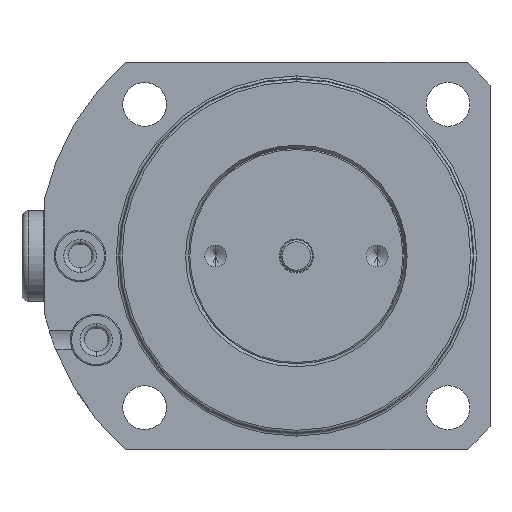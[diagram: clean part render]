
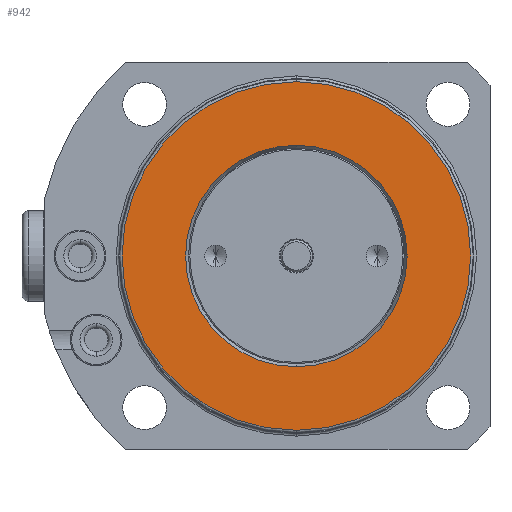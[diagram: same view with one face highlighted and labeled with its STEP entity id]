
A CAD part, front view. The second image highlights one B-rep face of the part: STEP entity #942.
In plain terms, the highlighted planar face has unit normal (0, -1, 0).
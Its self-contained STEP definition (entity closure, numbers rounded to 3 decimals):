
#362=PLANE('',#3974);
#425=FACE_BOUND('',#1443,.T.);
#426=FACE_BOUND('',#1444,.T.);
#942=ADVANCED_FACE('',(#425,#426),#362,.T.);
#1443=EDGE_LOOP('',(#1958,#1959));
#1444=EDGE_LOOP('',(#1960,#1961));
#1958=ORIENTED_EDGE('',*,*,#3113,.T.);
#1959=ORIENTED_EDGE('',*,*,#3195,.T.);
#1960=ORIENTED_EDGE('',*,*,#3108,.F.);
#1961=ORIENTED_EDGE('',*,*,#3196,.F.);
#2770=VERTEX_POINT('',#6014);
#2771=VERTEX_POINT('',#6015);
#2774=VERTEX_POINT('',#6023);
#2775=VERTEX_POINT('',#6025);
#3108=EDGE_CURVE('',#2770,#2771,#3551,.T.);
#3113=EDGE_CURVE('',#2775,#2774,#3555,.T.);
#3195=EDGE_CURVE('',#2774,#2775,#3599,.T.);
#3196=EDGE_CURVE('',#2771,#2770,#3600,.T.);
#3551=CIRCLE('',#3900,27.);
#3555=CIRCLE('',#3905,17.162);
#3599=CIRCLE('',#3971,17.162);
#3600=CIRCLE('',#3973,27.);
#3900=AXIS2_PLACEMENT_3D('',#6013,#4626,#4627);
#3905=AXIS2_PLACEMENT_3D('',#6024,#4637,#4638);
#3971=AXIS2_PLACEMENT_3D('',#6230,#4794,#4795);
#3973=AXIS2_PLACEMENT_3D('',#6232,#4798,#4799);
#3974=AXIS2_PLACEMENT_3D('',#6233,#4800,#4801);
#4626=DIRECTION('',(0.,1.,0.));
#4627=DIRECTION('',(0.,0.,1.));
#4637=DIRECTION('',(0.,1.,0.));
#4638=DIRECTION('',(0.,0.,1.));
#4794=DIRECTION('',(0.,1.,0.));
#4795=DIRECTION('',(0.,0.,1.));
#4798=DIRECTION('',(0.,1.,0.));
#4799=DIRECTION('',(0.,0.,1.));
#4800=DIRECTION('',(0.,-1.,0.));
#4801=DIRECTION('',(0.,0.,1.));
#6013=CARTESIAN_POINT('',(0.,1.087,0.));
#6014=CARTESIAN_POINT('',(0.,1.087,27.));
#6015=CARTESIAN_POINT('',(0.,1.087,-27.));
#6023=CARTESIAN_POINT('',(0.,1.087,17.162));
#6024=CARTESIAN_POINT('',(0.,1.087,0.));
#6025=CARTESIAN_POINT('',(0.,1.087,-17.162));
#6230=CARTESIAN_POINT('',(0.,1.087,0.));
#6232=CARTESIAN_POINT('',(0.,1.087,0.));
#6233=CARTESIAN_POINT('',(0.,1.087,0.));
